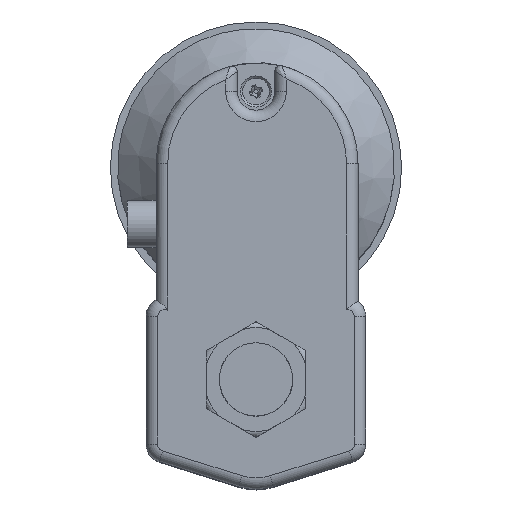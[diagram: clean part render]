
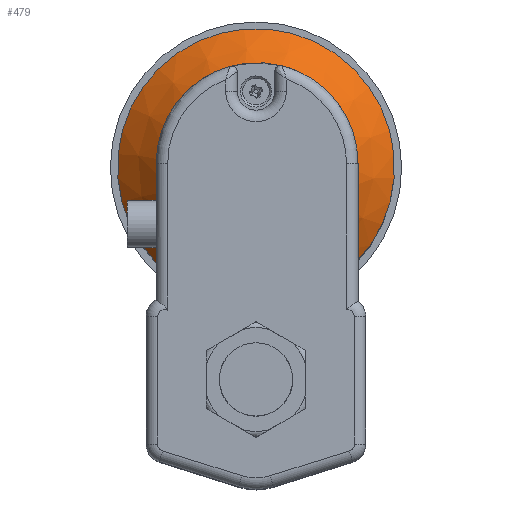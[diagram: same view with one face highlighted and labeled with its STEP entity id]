
A CAD part, top view. The second image highlights one B-rep face of the part: STEP entity #479.
In plain terms, the highlighted conical face has half-angle 45 degrees and reference radius 48 mm.
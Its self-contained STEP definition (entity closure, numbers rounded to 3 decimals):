
#68 = VERTEX_POINT ( 'NONE', #231 ) ;
#71 = VERTEX_POINT ( 'NONE', #234 ) ;
#231 = CARTESIAN_POINT ( 'NONE',  ( -27.908, 34.847, 53.5 ) ) ;
#234 = CARTESIAN_POINT ( 'NONE',  ( 27.908, 34.847, 53.5 ) ) ;
#479 = ADVANCED_FACE ( 'NONE', ( #2281, #2275 ), #2282, .T. ) ;
#742 = DIRECTION ( 'NONE',  ( 0., 1., 0. ) ) ;
#752 = CARTESIAN_POINT ( 'NONE',  ( 0., 73.9, 53.5 ) ) ;
#753 = DIRECTION ( 'NONE',  ( 0., 0., -1. ) ) ;
#1865 = B_SPLINE_CURVE_WITH_KNOTS ( 'NONE', 3,
 ( #5194, #5197, #5198, #5199, #5200, #5201, #5202, #5203, #5204, #5205, #5206, #5207, #5208, #5209, #5210, #5211, #5212, #5213, #5214, #5215, #5216, #5217, #5218, #5219, #5220, #5221 ),
 .UNSPECIFIED., .F., .F.,
 ( 4, 2, 2, 2, 2, 2, 2, 2, 2, 2, 2, 2, 4 ),
 ( 0., 0.004, 0.007, 0.015, 0.018, 0.022, 0.026, 0.029, 0.037, 0.04, 0.044, 0.051, 0.059 ),
 .UNSPECIFIED. ) ;
#2275 = FACE_OUTER_BOUND ( 'NONE', #4223, .T. ) ;
#2281 = FACE_BOUND ( 'NONE', #4198, .T. ) ;
#2282 = CONICAL_SURFACE ( 'NONE', #3677, 48., 0.785 ) ;
#2794 = CIRCLE ( 'NONE', #3138, 48. ) ;
#2797 = CIRCLE ( 'NONE', #3132, 34. ) ;
#3132 = AXIS2_PLACEMENT_3D ( 'NONE', #5222, #5226, #5227 ) ;
#3138 = AXIS2_PLACEMENT_3D ( 'NONE', #5184, #5195, #5196 ) ;
#3524 = EDGE_CURVE ( 'NONE', #71, #68, #2794, .T. ) ;
#3525 = EDGE_CURVE ( 'NONE', #68, #71, #1865, .T. ) ;
#3527 = EDGE_CURVE ( 'NONE', #5739, #5739, #2797, .T. ) ;
#3677 = AXIS2_PLACEMENT_3D ( 'NONE', #752, #753, #742 ) ;
#4012 = ORIENTED_EDGE ( 'NONE', *, *, #3525, .T. ) ;
#4019 = ORIENTED_EDGE ( 'NONE', *, *, #3527, .F. ) ;
#4033 = ORIENTED_EDGE ( 'NONE', *, *, #3524, .T. ) ;
#4198 = EDGE_LOOP ( 'NONE', ( #4019 ) ) ;
#4223 = EDGE_LOOP ( 'NONE', ( #4033, #4012 ) ) ;
#5184 = CARTESIAN_POINT ( 'NONE',  ( 0., 73.9, 53.5 ) ) ;
#5194 = CARTESIAN_POINT ( 'NONE',  ( -27.908, 34.847, 53.5 ) ) ;
#5195 = DIRECTION ( 'NONE',  ( 0., 0., 1. ) ) ;
#5196 = DIRECTION ( 'NONE',  ( 0., -1., 0. ) ) ;
#5197 = CARTESIAN_POINT ( 'NONE',  ( -26.826, 34.768, 54.065 ) ) ;
#5198 = CARTESIAN_POINT ( 'NONE',  ( -25.733, 34.688, 54.609 ) ) ;
#5199 = CARTESIAN_POINT ( 'NONE',  ( -23.531, 34.53, 55.644 ) ) ;
#5200 = CARTESIAN_POINT ( 'NONE',  ( -22.421, 34.452, 56.137 ) ) ;
#5201 = CARTESIAN_POINT ( 'NONE',  ( -19.06, 34.223, 57.53 ) ) ;
#5202 = CARTESIAN_POINT ( 'NONE',  ( -16.779, 34.077, 58.344 ) ) ;
#5203 = CARTESIAN_POINT ( 'NONE',  ( -13.28, 33.887, 59.356 ) ) ;
#5204 = CARTESIAN_POINT ( 'NONE',  ( -12.101, 33.829, 59.657 ) ) ;
#5205 = CARTESIAN_POINT ( 'NONE',  ( -9.715, 33.725, 60.183 ) ) ;
#5206 = CARTESIAN_POINT ( 'NONE',  ( -8.505, 33.679, 60.407 ) ) ;
#5207 = CARTESIAN_POINT ( 'NONE',  ( -6.081, 33.605, 60.767 ) ) ;
#5208 = CARTESIAN_POINT ( 'NONE',  ( -4.863, 33.577, 60.903 ) ) ;
#5209 = CARTESIAN_POINT ( 'NONE',  ( -2.415, 33.538, 61.085 ) ) ;
#5210 = CARTESIAN_POINT ( 'NONE',  ( -1.188, 33.529, 61.13 ) ) ;
#5211 = CARTESIAN_POINT ( 'NONE',  ( 2.477, 33.529, 61.127 ) ) ;
#5212 = CARTESIAN_POINT ( 'NONE',  ( 4.908, 33.569, 60.942 ) ) ;
#5213 = CARTESIAN_POINT ( 'NONE',  ( 8.537, 33.68, 60.402 ) ) ;
#5214 = CARTESIAN_POINT ( 'NONE',  ( 9.746, 33.726, 60.177 ) ) ;
#5215 = CARTESIAN_POINT ( 'NONE',  ( 12.13, 33.83, 59.65 ) ) ;
#5216 = CARTESIAN_POINT ( 'NONE',  ( 13.307, 33.888, 59.348 ) ) ;
#5217 = CARTESIAN_POINT ( 'NONE',  ( 16.801, 34.078, 58.337 ) ) ;
#5218 = CARTESIAN_POINT ( 'NONE',  ( 19.078, 34.224, 57.523 ) ) ;
#5219 = CARTESIAN_POINT ( 'NONE',  ( 23.55, 34.529, 55.668 ) ) ;
#5220 = CARTESIAN_POINT ( 'NONE',  ( 25.745, 34.688, 54.629 ) ) ;
#5221 = CARTESIAN_POINT ( 'NONE',  ( 27.908, 34.847, 53.5 ) ) ;
#5222 = CARTESIAN_POINT ( 'NONE',  ( 0., 73.9, 67.5 ) ) ;
#5226 = DIRECTION ( 'NONE',  ( 0., 0., 1. ) ) ;
#5227 = DIRECTION ( 'NONE',  ( 0., -1., 0. ) ) ;
#5739 = VERTEX_POINT ( 'NONE', #5740 ) ;
#5740 = CARTESIAN_POINT ( 'NONE',  ( 0., 39.9, 67.5 ) ) ;
